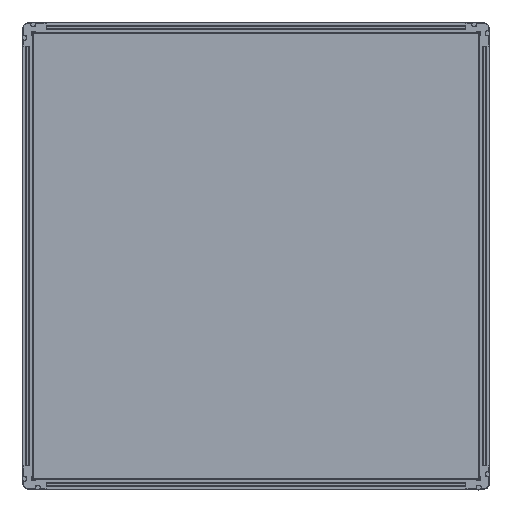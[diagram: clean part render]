
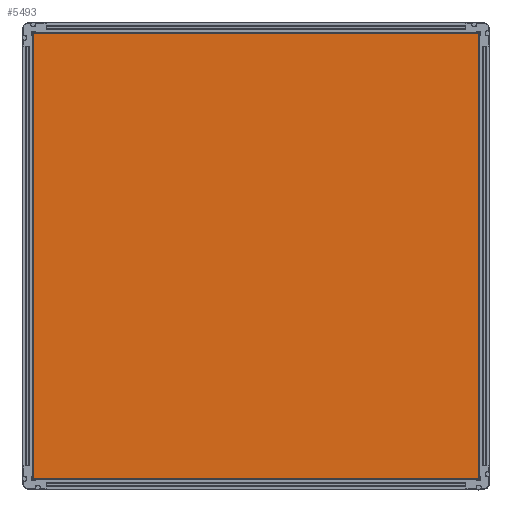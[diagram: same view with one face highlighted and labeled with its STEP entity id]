
A CAD part, top view. The second image highlights one B-rep face of the part: STEP entity #5493.
In plain terms, the highlighted planar face has unit normal (0, 0, 1).
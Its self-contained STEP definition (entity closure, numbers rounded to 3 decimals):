
#81=LINE('',#7786,#693);
#84=LINE('',#7791,#696);
#87=LINE('',#7797,#699);
#90=LINE('',#7801,#702);
#693=VECTOR('',#6312,764.);
#696=VECTOR('',#6317,764.);
#699=VECTOR('',#6322,764.);
#702=VECTOR('',#6327,764.);
#1407=FACE_OUTER_BOUND('',#1732,.T.);
#1732=EDGE_LOOP('',(#3481,#3482,#3483,#3484));
#2190=VERTEX_POINT('',#7784);
#2191=VERTEX_POINT('',#7785);
#2192=VERTEX_POINT('',#7790);
#2194=VERTEX_POINT('',#7796);
#2683=EDGE_CURVE('',#2190,#2191,#81,.T.);
#2686=EDGE_CURVE('',#2191,#2192,#84,.T.);
#2689=EDGE_CURVE('',#2192,#2194,#87,.T.);
#2692=EDGE_CURVE('',#2194,#2190,#90,.T.);
#3481=ORIENTED_EDGE('',*,*,#2683,.F.);
#3482=ORIENTED_EDGE('',*,*,#2692,.F.);
#3483=ORIENTED_EDGE('',*,*,#2689,.F.);
#3484=ORIENTED_EDGE('',*,*,#2686,.F.);
#4944=PLANE('',#5820);
#5493=ADVANCED_FACE('',(#1407),#4944,.T.);
#5820=AXIS2_PLACEMENT_3D('',#7802,#6328,#6329);
#6312=DIRECTION('',(-1.,0.,0.));
#6317=DIRECTION('',(0.,1.,0.));
#6322=DIRECTION('',(1.,0.,0.));
#6327=DIRECTION('',(0.,-1.,0.));
#6328=DIRECTION('center_axis',(0.,0.,
1.));
#6329=DIRECTION('ref_axis',(1.,0.,0.));
#7784=CARTESIAN_POINT('',(382.,-382.,35.));
#7785=CARTESIAN_POINT('',(-382.,-382.,35.));
#7786=CARTESIAN_POINT('',(191.5,-382.,35.));
#7790=CARTESIAN_POINT('',(-382.,382.,35.));
#7791=CARTESIAN_POINT('',(-382.,-191.5,35.));
#7796=CARTESIAN_POINT('',(382.,382.,35.));
#7797=CARTESIAN_POINT('',(-191.5,382.,35.));
#7801=CARTESIAN_POINT('',(382.,191.5,35.));
#7802=CARTESIAN_POINT('Origin',(0.,0.,
35.));
